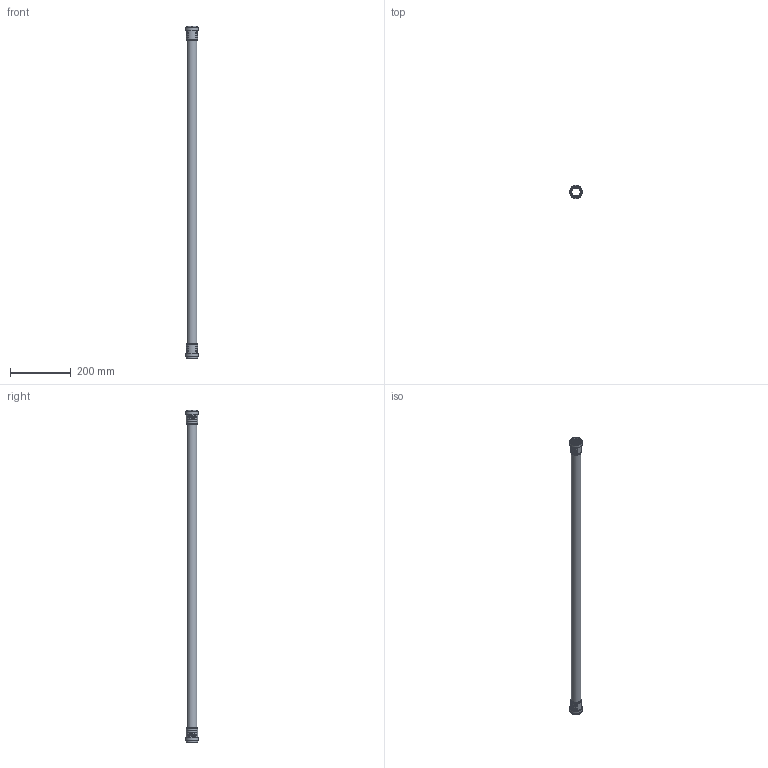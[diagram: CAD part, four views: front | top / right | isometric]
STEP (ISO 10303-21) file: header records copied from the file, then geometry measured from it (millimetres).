
FILE_DESCRIPTION(/* description */ (''),/* implementation_level */ '2;1');
FILE_NAME(/* name */ 'Z:\Geberit\Export\NewStep\Rohr2Muffen_Iassembly\stp\390011.stp',/* time_stamp */ '2014-04-03T17:47:25+02:00',/* author */ ('ML'),/* organization */ (''),/* preprocessor_version */ 'ST-DEVELOPER v15.2',/* originating_system */ 'Autodesk Inventor 2014',/* authorisation */ '');
FILE_SCHEMA (('AUTOMOTIVE_DESIGN { 1 0 10303 214 3 1 1 }'));
Length unit declared in the file: millimetre
Products named in the file (3): 861681; 861580ohne; 390011
Bounding box: 41.8 x 41.8 x 1088.6 mm (x, y, z)
Volume: 213310.6 mm3; surface area: 214781.8 mm2
Topology: 3 solids, 3 shells, 88 faces, 198 edges, 136 vertices
Faces by surface type: torus 48, cylinder 20, plane 18, cone 2
Full cylindrical faces by diameter (mm): 28.15 x3, 32.15 x3, 32.8 x4, 34.8 x2, 36.8 x4, 37.8 x2, 41.8 x2
Entity records: 1958 total; most frequent: CARTESIAN_POINT 928, DIRECTION 180, ORIENTED_EDGE 172, AXIS2_PLACEMENT_3D 90, EDGE_CURVE 86, EDGE_LOOP 76, VERTEX_POINT 70, B_SPLINE_CURVE_WITH_KNOTS 48
